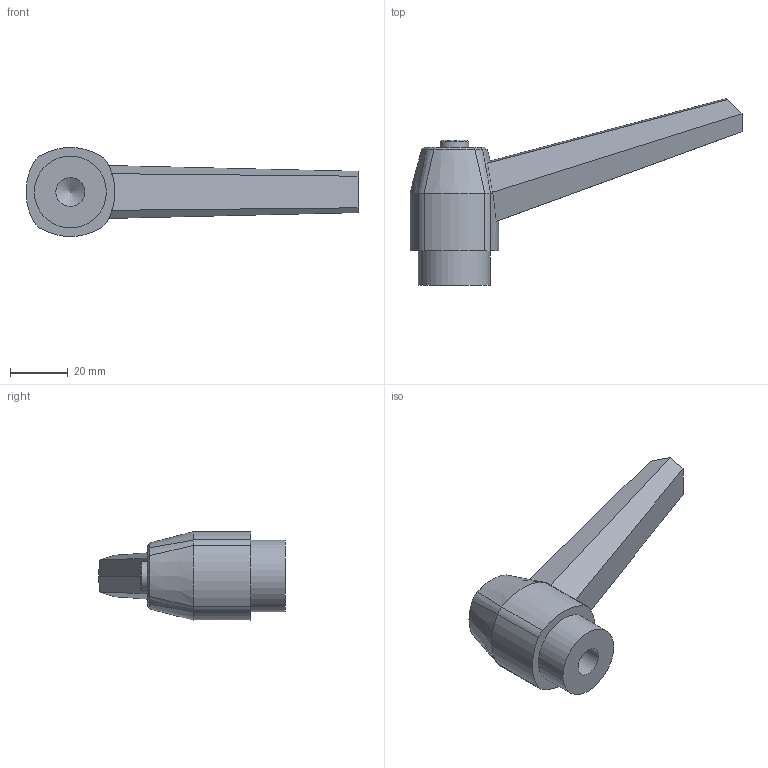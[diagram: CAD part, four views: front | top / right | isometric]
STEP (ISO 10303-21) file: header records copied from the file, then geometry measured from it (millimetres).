
FILE_DESCRIPTION (( 'STEP AP214' ), '1' );
FILE_NAME ('500-100-M12-OR.step', '2022-04-13T07:19:47', ( '' ), ( '' ), 'SwSTEP 2.0', 'SolidWorks 2019', '' );
FILE_SCHEMA (( 'AUTOMOTIVE_DESIGN' ));
Length unit declared in the file: millimetre
Products named in the file (1): 500-100-M12-OR
Bounding box: 115.44 x 64.99 x 30.88 mm (x, y, z)
Volume: 49822.4 mm3; surface area: 11559.9 mm2
Topology: 1 solids, 1 shells, 51 faces, 123 edges, 78 vertices
Faces by surface type: plane 21, cylinder 12, cone 10, bspline 8
Full cylindrical faces by diameter (mm): 10 x1, 10.1 x1, 12 x1, 25 x1
Entity records: 2071 total; most frequent: CARTESIAN_POINT 569, ORIENTED_EDGE 232, DIRECTION 182, EDGE_CURVE 116, VERTEX_POINT 77, AXIS2_PLACEMENT_3D 74, EDGE_LOOP 61, FACE_OUTER_BOUND 55
